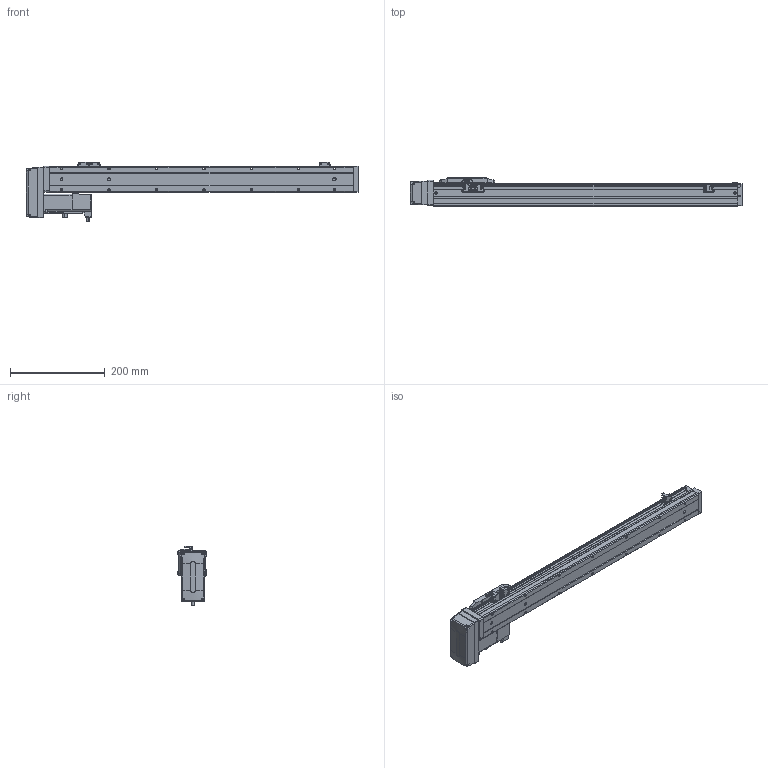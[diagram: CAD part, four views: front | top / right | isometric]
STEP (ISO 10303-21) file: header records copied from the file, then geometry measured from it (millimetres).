
FILE_DESCRIPTION (( 'STEP AP203' ), '1' );
FILE_NAME ('CTH5-L10-S500-BR-C10(¼ò).STEP', '2023-02-04T02:28:31', ( '' ), ( '' ), 'SwSTEP 2.0', 'SolidWorks 2018', '' );
FILE_SCHEMA (( 'CONFIG_CONTROL_DESIGN' ));
Length unit declared in the file: millimetre
Products named in the file (22): CTH5-BL-T10_body5; CTH嫖萇羲壽假蚾啣; M3｡｣; 100W萇儂; CTH5賑怢; T10-p1; CTH5菁釱-L640; 葩璃 蚾饜极16^CTH5-L10-S500-BR-C10(潠); 葩璃 蚾饜极13^CTH8-L10-S50-BM-C40(潠)1; CTH5耜蚾蟀諉啣(潠); CTH5耜晚蹟隊-1; PM-Y45; CTH5綴耜啣; 嫖萇羲壽郪磁1; CTH5耜蚾欶; hex nuts, style 1-grades ab gb_GB_FASTENER_NUT_SNAB1 M3-N; 内六角圆柱头螺钉M3-2; CTH5覜茼え; CTH5耜晚蹟隊; CTH100W假蚾啣; CTH5ヶ耜啣(潠); CTH5-L10-S500-BR-C10(潠)
Assembly tree (37 placements, depth 4):
  CTH5-L10-S500-BR-C10(潠)
    CTH5綴耜啣
    CTH5賑怢
    CTH5ヶ耜啣(潠)
    CTH5菁釱-L640
    CTH5耜晚蹟隊  x2
    嫖萇羲壽郪磁1  x2
      CTH嫖萇羲壽假蚾啣
      PM-Y45
      M3｡｣
      内六角圆柱头螺钉M3-2
      hex nuts, style 1-grades ab gb_GB_FASTENER_NUT_SNAB1 M3-N
    CTH5覜茼え
    葩璃 蚾饜极13^CTH8-L10-S50-BM-C40(潠)1
      CTH嫖萇羲壽假蚾啣
      PM-Y45
      内六角圆柱头螺钉M3-2  x2
      M3｡｣  x2
      hex nuts, style 1-grades ab gb_GB_FASTENER_NUT_SNAB1 M3-N  x2
    CTH5耜晚蹟隊-1  x4
    葩璃 蚾饜极16^CTH5-L10-S500-BR-C10(潠)
      CTH5耜蚾蟀諉啣(潠)
      CTH5耜蚾欶
        CTH5-BL-T10_body5
      100W萇儂
        T10-p1
      CTH100W假蚾啣
Bounding box: 700 x 60 x 126.31 mm (x, y, z)
Volume: 1765268.2 mm3; surface area: 256424.4 mm2
Topology: 39 solids, 39 shells, 1607 faces, 4033 edges, 2604 vertices
Faces by surface type: plane 890, cylinder 468, cone 191, torus 40, bspline 18
Entity records: 37471 total; most frequent: CARTESIAN_POINT 6940, DIRECTION 5917, ORIENTED_EDGE 5690, EDGE_CURVE 2845, AXIS2_PLACEMENT_3D 2036, VECTOR 1845, LINE 1845, VERTEX_POINT 1832
